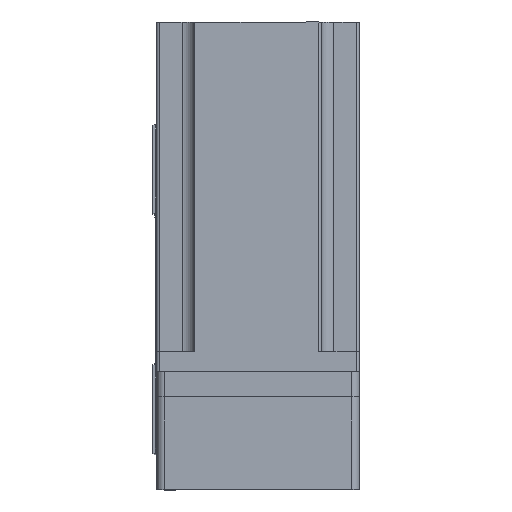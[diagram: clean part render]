
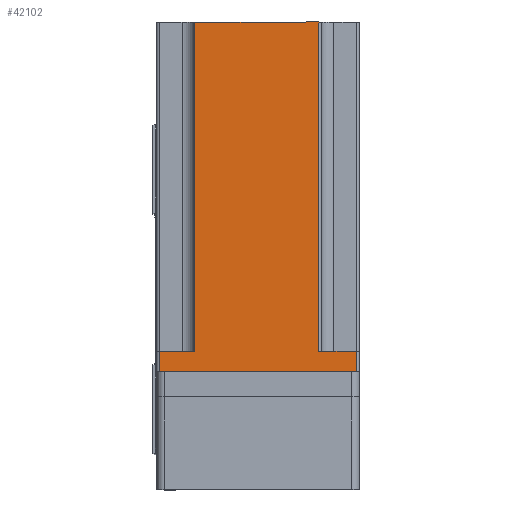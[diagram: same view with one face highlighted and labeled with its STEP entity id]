
A CAD part, top view. The second image highlights one B-rep face of the part: STEP entity #42102.
In plain terms, the highlighted planar face has unit normal (0, 0, 1) as drawn and (-1, 0, 0) by its records, which use the part's own axes.
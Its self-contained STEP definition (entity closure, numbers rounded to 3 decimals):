
#95 = CARTESIAN_POINT ( 'NONE',  ( -40., -39., 0. ) ) ;
#1158 = ORIENTED_EDGE ( 'NONE', *, *, #15036, .T. ) ;
#1806 = EDGE_LOOP ( 'NONE', ( #15285, #36856, #41346, #35133, #35984, #1870, #8163, #1158 ) ) ;
#1870 = ORIENTED_EDGE ( 'NONE', *, *, #17174, .T. ) ;
#2516 = CARTESIAN_POINT ( 'NONE',  ( -40., -39., 138.3 ) ) ;
#3573 = VERTEX_POINT ( 'NONE', #15336 ) ;
#4076 = DIRECTION ( 'NONE',  ( 0., 1., 0. ) ) ;
#5552 = CARTESIAN_POINT ( 'NONE',  ( -40., -24., 138.3 ) ) ;
#7080 = LINE ( 'NONE', #2516, #24535 ) ;
#8163 = ORIENTED_EDGE ( 'NONE', *, *, #32060, .T. ) ;
#8179 = VERTEX_POINT ( 'NONE', #14375 ) ;
#11898 = PLANE ( 'NONE',  #39934 ) ;
#12046 = DIRECTION ( 'NONE',  ( 1., 0., 0. ) ) ;
#12265 = DIRECTION ( 'NONE',  ( 0., -1., 0. ) ) ;
#14074 = VERTEX_POINT ( 'NONE', #25931 ) ;
#14375 = CARTESIAN_POINT ( 'NONE',  ( -40., 25., 8. ) ) ;
#14958 = LINE ( 'NONE', #27217, #23648 ) ;
#15036 = EDGE_CURVE ( 'NONE', #24165, #22631, #7080, .T. ) ;
#15285 = ORIENTED_EDGE ( 'NONE', *, *, #24718, .F. ) ;
#15336 = CARTESIAN_POINT ( 'NONE',  ( -40., -24., 138.3 ) ) ;
#15538 = LINE ( 'NONE', #19086, #33034 ) ;
#17174 = EDGE_CURVE ( 'NONE', #38148, #32729, #15538, .T. ) ;
#19086 = CARTESIAN_POINT ( 'NONE',  ( -40., 39., 138.3 ) ) ;
#21591 = CARTESIAN_POINT ( 'NONE',  ( -40., -40., 0. ) ) ;
#22267 = DIRECTION ( 'NONE',  ( 0., 0., -1. ) ) ;
#22631 = VERTEX_POINT ( 'NONE', #39212 ) ;
#23317 = VECTOR ( 'NONE', #4076, 1000. ) ;
#23590 = LINE ( 'NONE', #29883, #40117 ) ;
#23648 = VECTOR ( 'NONE', #30577, 1000. ) ;
#23990 = CARTESIAN_POINT ( 'NONE',  ( -40., 25., 138.3 ) ) ;
#24165 = VERTEX_POINT ( 'NONE', #95 ) ;
#24535 = VECTOR ( 'NONE', #29184, 1000. ) ;
#24718 = EDGE_CURVE ( 'NONE', #14074, #22631, #23590, .T. ) ;
#24736 = CARTESIAN_POINT ( 'NONE',  ( -40., 39., 0. ) ) ;
#25203 = DIRECTION ( 'NONE',  ( 0., 0., 1. ) ) ;
#25726 = VECTOR ( 'NONE', #25203, 1000. ) ;
#25931 = CARTESIAN_POINT ( 'NONE',  ( -40., -24., 8. ) ) ;
#26101 = VECTOR ( 'NONE', #12265, 1000. ) ;
#27217 = CARTESIAN_POINT ( 'NONE',  ( -40., 25., 8. ) ) ;
#28411 = EDGE_CURVE ( 'NONE', #8179, #38148, #40892, .T. ) ;
#28551 = CARTESIAN_POINT ( 'NONE',  ( -40., -40., 138.3 ) ) ;
#29184 = DIRECTION ( 'NONE',  ( 0., 0., 1. ) ) ;
#29883 = CARTESIAN_POINT ( 'NONE',  ( -40., -40., 8. ) ) ;
#29997 = EDGE_CURVE ( 'NONE', #8179, #37803, #14958, .T. ) ;
#30433 = CARTESIAN_POINT ( 'NONE',  ( -40., 40., 8. ) ) ;
#30577 = DIRECTION ( 'NONE',  ( 0., 0., 1. ) ) ;
#31778 = CARTESIAN_POINT ( 'NONE',  ( -40., -40., 138.3 ) ) ;
#32060 = EDGE_CURVE ( 'NONE', #32729, #24165, #38616, .T. ) ;
#32112 = EDGE_CURVE ( 'NONE', #14074, #3573, #34508, .T. ) ;
#32629 = CARTESIAN_POINT ( 'NONE',  ( -40., 39., 8. ) ) ;
#32729 = VERTEX_POINT ( 'NONE', #24736 ) ;
#33034 = VECTOR ( 'NONE', #22267, 1000. ) ;
#33178 = DIRECTION ( 'NONE',  ( 0., -1., 0. ) ) ;
#33798 = EDGE_CURVE ( 'NONE', #37803, #3573, #34893, .T. ) ;
#34508 = LINE ( 'NONE', #5552, #25726 ) ;
#34893 = LINE ( 'NONE', #28551, #26101 ) ;
#35086 = DIRECTION ( 'NONE',  ( 0., 0., -1. ) ) ;
#35133 = ORIENTED_EDGE ( 'NONE', *, *, #29997, .F. ) ;
#35984 = ORIENTED_EDGE ( 'NONE', *, *, #28411, .T. ) ;
#36553 = VECTOR ( 'NONE', #41356, 1000. ) ;
#36856 = ORIENTED_EDGE ( 'NONE', *, *, #32112, .T. ) ;
#37803 = VERTEX_POINT ( 'NONE', #23990 ) ;
#38148 = VERTEX_POINT ( 'NONE', #32629 ) ;
#38616 = LINE ( 'NONE', #21591, #36553 ) ;
#39212 = CARTESIAN_POINT ( 'NONE',  ( -40., -39., 8. ) ) ;
#39934 = AXIS2_PLACEMENT_3D ( 'NONE', #31778, #12046, #35086 ) ;
#40117 = VECTOR ( 'NONE', #33178, 1000. ) ;
#40892 = LINE ( 'NONE', #30433, #23317 ) ;
#41346 = ORIENTED_EDGE ( 'NONE', *, *, #33798, .F. ) ;
#41356 = DIRECTION ( 'NONE',  ( 0., -1., 0. ) ) ;
#42102 = ADVANCED_FACE ( 'NONE', ( #42200 ), #11898, .F. ) ;
#42200 = FACE_OUTER_BOUND ( 'NONE', #1806, .T. ) ;
